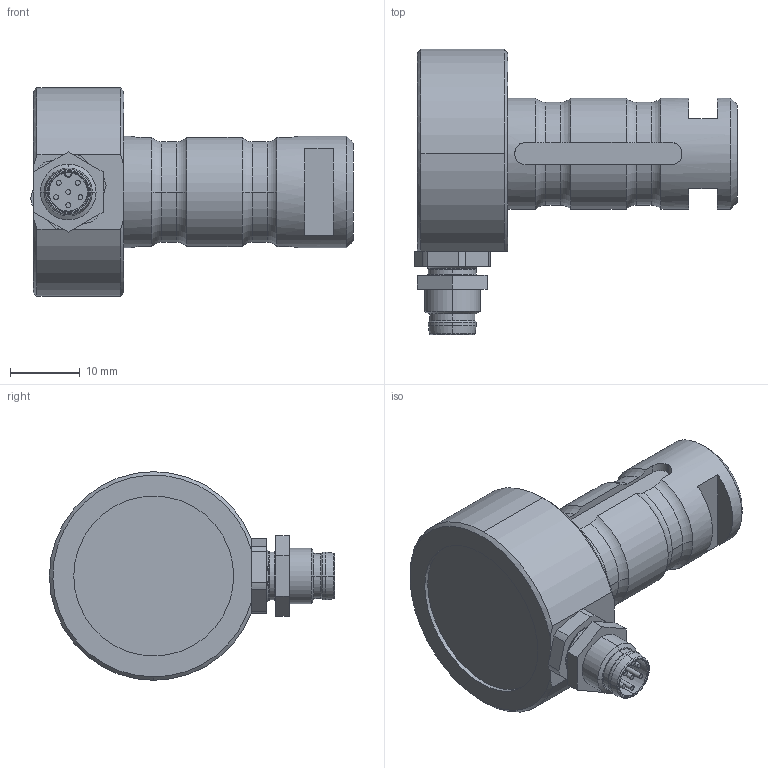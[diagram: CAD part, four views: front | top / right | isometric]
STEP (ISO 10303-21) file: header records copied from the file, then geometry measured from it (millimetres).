
FILE_DESCRIPTION(('HOOPS Exchange Step'),'2;1');
FILE_NAME('C:\Users\tom\AppData\Local\Temp\Alibre Design\export-47E8BEF2-8EF6-4464-8BEC-E20771ADAA91.stp','2021-08-27T13:02:31+02:00',('tom'),('Alibre'),'HOOPS Exchange 2021.0','Alibre','Unknown authorisation');
FILE_SCHEMA( ('AP242_MANAGED_MODEL_BASED_3D_ENGINEERING_MIM_LF {1 0 10303 442 1 1 4 }') );
Length unit declared in the file: centimetre
Products named in the file (10): mb1777_001(a); M8-6P-Stecker-mit-Farbcode; GSV13i_Fusion_2; GSV13i_Fusion_3; GSV13i_Fusion_4; GSV13i_Fusion_5; GSV13i_Fusion; GSV13i; Sechskantmutter M8x0,5; mb1777_000(a)
Assembly tree (9 placements, depth 4):
  mb1777_000(a)
    mb1777_001(a)
    M8-6P-Stecker-mit-Farbcode
    GSV13i
      GSV13i_Fusion
        GSV13i_Fusion_2
        GSV13i_Fusion_3
        GSV13i_Fusion_4
        GSV13i_Fusion_5
    Sechskantmutter M8x0,5
Bounding box: 46.42 x 41 x 30 mm (x, y, z)
Volume: 15759 mm3; surface area: 6630.2 mm2
Topology: 6 solids, 34 shells, 2749 faces, 7600 edges, 5027 vertices
Faces by surface type: plane 1857, cylinder 580, extrusion 221, torus 37, bspline 28, cone 22, sphere 4
Full cylindrical faces by diameter (mm): 0.7 x6, 7.459 x1, 16 x2, 23 x1
Entity records: 100087 total; most frequent: CARTESIAN_POINT 29201, ORIENTED_EDGE 15048, DIRECTION 13524, EDGE_CURVE 7612, VECTOR 5972, LINE 5751, VERTEX_POINT 5039, AXIS2_PLACEMENT_3D 3776
